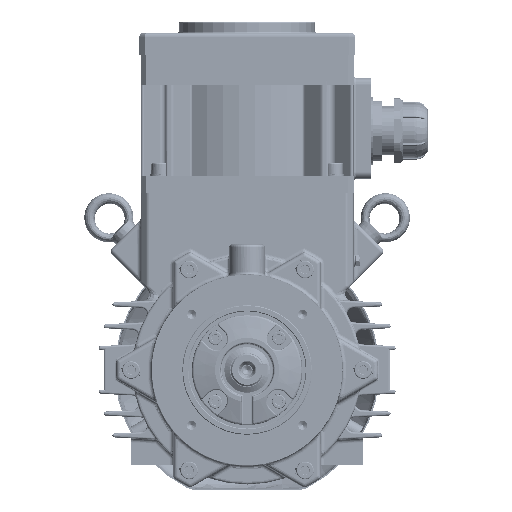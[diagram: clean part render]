
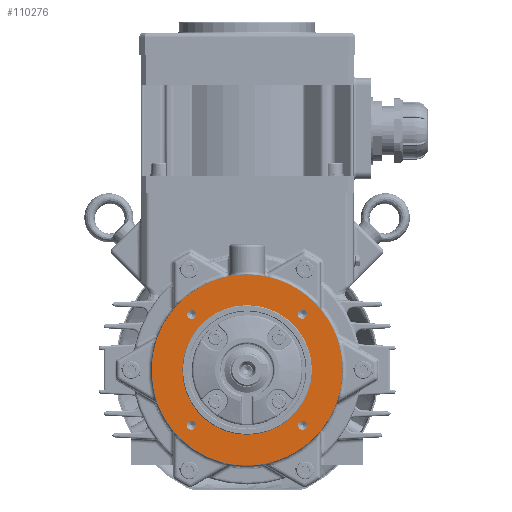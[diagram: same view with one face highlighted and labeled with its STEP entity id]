
A CAD part, front view. The second image highlights one B-rep face of the part: STEP entity #110276.
In plain terms, the highlighted planar face has unit normal (0, -1, 0).
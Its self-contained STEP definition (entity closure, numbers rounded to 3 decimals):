
#1562=PLANE('',#115835);
#6040=CIRCLE('',#115836,47.5);
#6041=CIRCLE('',#115837,70.);
#6042=CIRCLE('',#115838,3.324);
#6043=CIRCLE('',#115839,3.324);
#6044=CIRCLE('',#115840,3.324);
#6045=CIRCLE('',#115841,3.324);
#13864=ORIENTED_EDGE('',*,*,#35285,.F.);
#13865=ORIENTED_EDGE('',*,*,#35286,.T.);
#13866=ORIENTED_EDGE('',*,*,#35287,.T.);
#13867=ORIENTED_EDGE('',*,*,#35288,.T.);
#13868=ORIENTED_EDGE('',*,*,#35289,.T.);
#13869=ORIENTED_EDGE('',*,*,#35290,.T.);
#35285=EDGE_CURVE('',#46161,#46161,#6040,.T.);
#35286=EDGE_CURVE('',#46162,#46162,#6041,.T.);
#35287=EDGE_CURVE('',#46163,#46163,#6042,.T.);
#35288=EDGE_CURVE('',#46164,#46164,#6043,.T.);
#35289=EDGE_CURVE('',#46165,#46165,#6044,.T.);
#35290=EDGE_CURVE('',#46166,#46166,#6045,.T.);
#46161=VERTEX_POINT('',#158239);
#46162=VERTEX_POINT('',#158241);
#46163=VERTEX_POINT('',#158243);
#46164=VERTEX_POINT('',#158245);
#46165=VERTEX_POINT('',#158247);
#46166=VERTEX_POINT('',#158249);
#63837=EDGE_LOOP('',(#13864));
#63838=EDGE_LOOP('',(#13865));
#63839=EDGE_LOOP('',(#13866));
#63840=EDGE_LOOP('',(#13867));
#63841=EDGE_LOOP('',(#13868));
#63842=EDGE_LOOP('',(#13869));
#69620=FACE_BOUND('',#63837,.T.);
#69621=FACE_BOUND('',#63838,.T.);
#69622=FACE_BOUND('',#63839,.T.);
#69623=FACE_BOUND('',#63840,.T.);
#69624=FACE_BOUND('',#63841,.T.);
#69625=FACE_BOUND('',#63842,.T.);
#110276=ADVANCED_FACE('',(#69620,#69621,#69622,#69623,#69624,#69625),#1562,
 .T.);
#115835=AXIS2_PLACEMENT_3D('',#158237,#127380,#127381);
#115836=AXIS2_PLACEMENT_3D('',#158238,#127382,#127383);
#115837=AXIS2_PLACEMENT_3D('',#158240,#127384,#127385);
#115838=AXIS2_PLACEMENT_3D('',#158242,#127386,#127387);
#115839=AXIS2_PLACEMENT_3D('',#158244,#127388,#127389);
#115840=AXIS2_PLACEMENT_3D('',#158246,#127390,#127391);
#115841=AXIS2_PLACEMENT_3D('',#158248,#127392,#127393);
#127380=DIRECTION('',(0.,-1.,0.));
#127381=DIRECTION('',(0.,0.,1.));
#127382=DIRECTION('',(0.,-1.,0.));
#127383=DIRECTION('',(0.,0.,1.));
#127384=DIRECTION('',(0.,-1.,0.));
#127385=DIRECTION('',(0.,0.,1.));
#127386=DIRECTION('',(0.,1.,0.));
#127387=DIRECTION('',(0.,0.,1.));
#127388=DIRECTION('',(0.,1.,0.));
#127389=DIRECTION('',(0.,0.,1.));
#127390=DIRECTION('',(0.,1.,0.));
#127391=DIRECTION('',(0.,0.,1.));
#127392=DIRECTION('',(0.,1.,0.));
#127393=DIRECTION('',(0.,0.,1.));
#158237=CARTESIAN_POINT('',(0.,-36.,47.5));
#158238=CARTESIAN_POINT('',(0.,-36.,0.));
#158239=CARTESIAN_POINT('',(0.,-36.,47.5));
#158240=CARTESIAN_POINT('',(0.,-36.,0.));
#158241=CARTESIAN_POINT('',(0.,-36.,70.));
#158242=CARTESIAN_POINT('',(-40.659,-36.,40.659));
#158243=CARTESIAN_POINT('',(-40.659,-36.,43.982));
#158244=CARTESIAN_POINT('',(40.484,-36.,40.832));
#158245=CARTESIAN_POINT('',(40.484,-36.,44.156));
#158246=CARTESIAN_POINT('',(40.659,-36.,-40.659));
#158247=CARTESIAN_POINT('',(40.659,-36.,-37.335));
#158248=CARTESIAN_POINT('',(-40.832,-36.,-40.484));
#158249=CARTESIAN_POINT('',(-40.832,-36.,-37.161));
